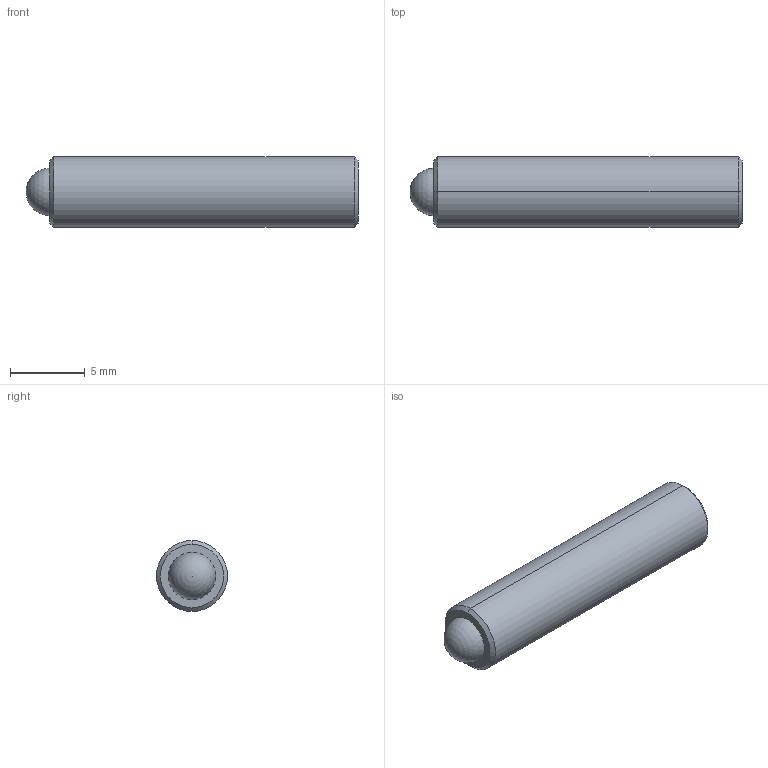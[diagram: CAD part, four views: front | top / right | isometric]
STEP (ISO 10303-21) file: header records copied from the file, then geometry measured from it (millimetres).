
FILE_DESCRIPTION (( 'STEP AP214' ), '1' );
FILE_NAME ('TS187-100-875.STEP', '2013-02-11T15:58:50', ( 'workpc' ), ( 'Microsoft' ), 'SwSTEP 2.0', 'SolidWorks 2013', '' );
FILE_SCHEMA (( 'AUTOMOTIVE_DESIGN' ));
Length unit declared in the file: inch
Products named in the file (1): TS187-100-875
Bounding box: 22.23 x 4.75 x 4.75 mm (x, y, z)
Volume: 361.1 mm3; surface area: 402 mm2
Topology: 2 solids, 2 shells, 20 faces, 45 edges, 29 vertices
Faces by surface type: plane 10, cylinder 4, cone 4, sphere 2
Entity records: 599 total; most frequent: DIRECTION 96, CARTESIAN_POINT 87, ORIENTED_EDGE 80, EDGE_CURVE 40, AXIS2_PLACEMENT_3D 35, LINE 26, VECTOR 26, VERTEX_POINT 26
